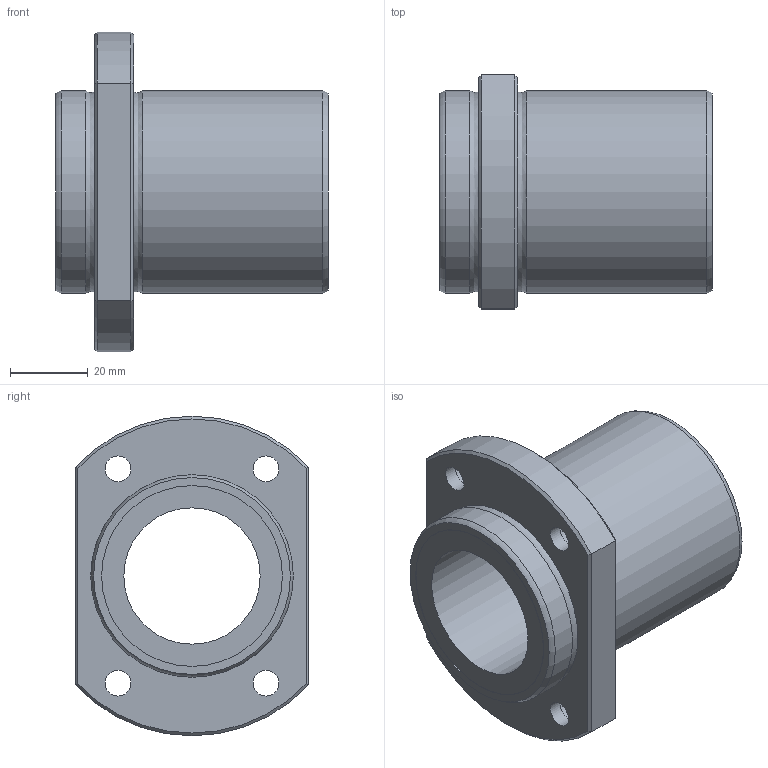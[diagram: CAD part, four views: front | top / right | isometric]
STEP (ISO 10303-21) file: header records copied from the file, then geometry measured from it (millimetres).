
FILE_DESCRIPTION((''),'2;1');
FILE_NAME('D:\製品 (図面)\カタログ用3D\リニアベアリング関連\STEP形式\LFTB\LFTB35.stp','2010-06-04T09:27:10',('Tsuchiya'),(''),'Autodesk Inventor 10','Autodesk Inventor 10','');
FILE_SCHEMA(('AUTOMOTIVE_DESIGN { 1 0 10303 214 1 1 1 1 }'));
Length unit declared in the file: millimetre
Products named in the file (1): LFTB35
Bounding box: 70 x 60 x 82 mm (x, y, z)
Volume: 100798 mm3; surface area: 27575.9 mm2
Topology: 1 solids, 1 shells, 39 faces, 75 edges, 46 vertices
Faces by surface type: bspline 14, plane 12, cylinder 7, cone 4, torus 2
Full cylindrical faces by diameter (mm): 35 x1, 46.4 x2, 52 x2
Entity records: 1177 total; most frequent: CARTESIAN_POINT 440, DIRECTION 140, ORIENTED_EDGE 116, EDGE_LOOP 74, AXIS2_PLACEMENT_3D 64, EDGE_CURVE 58, VERTEX_POINT 46, FACE_OUTER_BOUND 39
